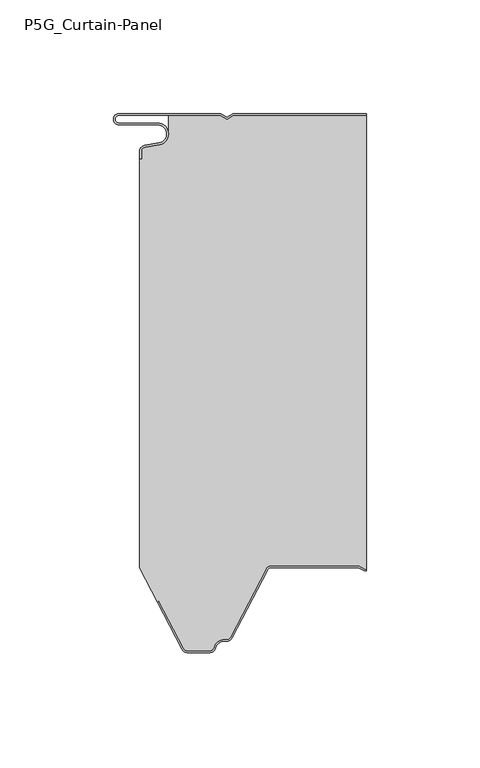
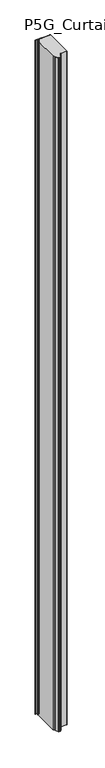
"""IFC4 building model written with IfcOpenShell, lengths in millimetres: plate geometry, P5G_Curtain-Panel : ACH_P5G_Rib-Roof-Panel_200M."""

from ifc_helpers import new_model, si_unit, frame, origin, place, context, project, spatial, polyline, circle_curve, source, transform, mapped, element, save
from ifc_brep_helpers import plane_surface, cylinder_surface, revolved_surface, advanced_brep


def p5g_curtain_panel_59ee5e51(model_context):
    return source(origin(), model_context, "Body", "AdvancedBrep", [
        advanced_brep(
        [(-50.0, -16.636349, 5000.0), (-50.0, -20.0, 5000.0), (-49.2, -20.0, 5000.0), (-49.2, -16.636349, 5000.0), (-47.7125667, -14.863695, 5000.0), (-41.266489, -13.7270771, 5000.0), (-42.1, -4.2, 5000.0), (-59.1, -4.2, 5000.0), (-59.1, -0.8, 5000.0), (-14.5143588, -0.8, 5000.0), (-11.6, -2.4826072, 5000.0), (-8.6856412, -0.8, 5000.0), (50.0, -0.8, 5000.0), (50.0, 0.0, 5000.0), (-8.9000007, 0.0, 5000.0), (-11.6, -1.5588466, 5000.0), (-14.2999993, 0.0, 5000.0), (-59.1, 0.0, 5000.0), (-59.1, -5.0, 5000.0), (-42.1, -5.0, 5000.0), (-41.4054075, -12.939231, 5000.0), (-47.851485, -14.075848, 5000.0), (-50.0, -16.636349, 0.0), (-47.8514853, -14.0758488, 0.0), (-41.4054075, -12.9392309, 0.0), (-42.1, -5.0, 0.0), (-59.1, -5.0, 0.0), (-59.1, 0.0, 0.0), (-14.2999993, 0.0, 0.0), (-11.6, -1.5588466, 0.0), (-8.9000007, 0.0, 0.0), (50.0, 0.0, 0.0), (50.0, -0.8, 0.0), (-8.6856412, -0.8, 0.0), (-11.6, -2.4826072, 0.0), (-14.5143588, -0.8, 0.0), (-59.1, -0.8, 0.0), (-59.1, -4.2, 0.0), (-42.1, -4.2, 0.0), (-41.266489, -13.7270773, 0.0), (-47.7125665, -14.8636942, 0.0), (-49.2, -16.636349, 0.0), (-49.2, -20.0, 0.0), (-50.0, -20.0, 0.0)],
        [
            (0, 1),
            (1, 2),
            (2, 3),
            (3, 4, circle_curve(frame((-47.4, -16.636349, 5000.0), z_axis=(0.0, 0.0, -1.0), x_axis=(1.0, 0.0, 0.0)), 1.8)),
            (4, 5),
            (5, 6, circle_curve(frame((-42.1, -9.0, 5000.0), z_axis=(0.0, 0.0, 1.0), x_axis=(1.0, 0.0, 0.0)), 4.8)),
            (6, 7),
            (7, 8, circle_curve(frame((-59.1, -2.5, 5000.0), z_axis=(0.0, 0.0, -1.0), x_axis=(1.0, 0.0, 0.0)), 1.7)),
            (8, 9),
            (9, 10),
            (10, 11),
            (11, 12),
            (12, 13),
            (13, 14),
            (14, 15),
            (15, 16),
            (16, 17),
            (17, 18, circle_curve(frame((-59.1, -2.5, 5000.0), z_axis=(0.0, 0.0, 1.0), x_axis=(1.0, 0.0, 0.0)), 2.5)),
            (18, 19),
            (19, 20, circle_curve(frame((-42.1, -9.0, 5000.0), z_axis=(0.0, 0.0, -1.0), x_axis=(1.0, 0.0, 0.0)), 4.0)),
            (20, 21),
            (21, 0, circle_curve(frame((-47.4, -16.636349, 5000.0), z_axis=(0.0, 0.0, 1.0), x_axis=(1.0, 0.0, 0.0)), 2.6)),
            (22, 23, circle_curve(frame((-47.4, -16.636349, 0.0), z_axis=(0.0, 0.0, -1.0), x_axis=(1.0, 0.0, 0.0)), 2.6)),
            (23, 24),
            (24, 25, circle_curve(frame((-42.1, -9.0, 0.0), z_axis=(0.0, 0.0, 1.0), x_axis=(1.0, 0.0, 0.0)), 4.0)),
            (25, 26),
            (26, 27, circle_curve(frame((-59.1, -2.5, 0.0), z_axis=(0.0, 0.0, -1.0), x_axis=(1.0, 0.0, 0.0)), 2.5)),
            (27, 28),
            (28, 29),
            (29, 30),
            (30, 31),
            (31, 32),
            (32, 33),
            (33, 34),
            (34, 35),
            (35, 36),
            (36, 37, circle_curve(frame((-59.1, -2.5, 0.0), z_axis=(0.0, 0.0, 1.0), x_axis=(1.0, 0.0, 0.0)), 1.7)),
            (37, 38),
            (38, 39, circle_curve(frame((-42.1, -9.0, 0.0), z_axis=(0.0, 0.0, -1.0), x_axis=(1.0, 0.0, 0.0)), 4.8)),
            (39, 40),
            (40, 41, circle_curve(frame((-47.4, -16.636349, 0.0), z_axis=(0.0, 0.0, 1.0), x_axis=(1.0, 0.0, 0.0)), 1.8)),
            (41, 42),
            (42, 43),
            (43, 22),
            (0, 22),
            (43, 1),
            (42, 2),
            (41, 3),
            (40, 4),
            (39, 5),
            (38, 6),
            (37, 7),
            (36, 8),
            (35, 9),
            (34, 10),
            (33, 11),
            (32, 12),
            (30, 14),
            (13, 31),
            (29, 15),
            (28, 16),
            (27, 17),
            (26, 18),
            (25, 19),
            (24, 20),
            (23, 21),
        ],
        [
            plane_surface(frame((-50.0, 0.0, 5000.0), z_axis=(0.0, 0.0, 1.0), x_axis=(0.0, 1.0, 0.0))),
            plane_surface(frame((-50.0, 0.0, 0.0), z_axis=(0.0, 0.0, -1.0), x_axis=(0.0, 1.0, 0.0))),
            plane_surface(frame((-50.0, -16.636349, 5000.0), z_axis=(-1.0, 0.0, 0.0), x_axis=(0.0, 0.0, -1.0))),
            plane_surface(frame((-50.0, -20.0, 5000.0), z_axis=(0.0, -1.0, 0.0), x_axis=(0.0, 0.0, -1.0))),
            plane_surface(frame((-49.2, -20.0, 5000.0), z_axis=(1.0, 0.0, 0.0), x_axis=(0.0, 0.0, -1.0))),
            revolved_surface(polyline([(-45.6, -16.636349, 0.0), (-45.6, -16.636349, 5000.0)]), (-47.4, -16.636349, 5000.0), (0.0, 0.0, -1.0)),
            plane_surface(frame((-47.7125665, -14.8636942, 5000.0), z_axis=(0.17364813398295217, -0.9848077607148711, 0.0), x_axis=(0.0, 0.0, -1.0))),
            cylinder_surface(frame((-42.1, -9.0, 5000.0), z_axis=(0.0, 0.0, 1.0), x_axis=(1.0, 0.0, 0.0)), 4.8),
            plane_surface(frame((-42.1, -4.2, 5000.0), z_axis=(0.0, 1.0, 0.0), x_axis=(0.0, 0.0, -1.0))),
            revolved_surface(polyline([(-57.4, -2.5, 0.0), (-57.4, -2.5, 5000.0)]), (-59.1, -2.5, 5000.0), (0.0, 0.0, -1.0)),
            plane_surface(frame((-59.1, -0.8, 5000.0), z_axis=(0.0, -1.0, 0.0), x_axis=(0.0, 0.0, -1.0))),
            plane_surface(frame((-14.5143588, -0.8, 5000.0), z_axis=(-0.5000003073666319, -0.8660252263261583, 0.0), x_axis=(0.0, 0.0, -1.0))),
            plane_surface(frame((-11.6, -2.4826072, 5000.0), z_axis=(0.5000003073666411, -0.866025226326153, 0.0), x_axis=(0.0, 0.0, -1.0))),
            plane_surface(frame((-8.6856412, -0.8, 5000.0), z_axis=(0.0, -1.0, 0.0), x_axis=(0.0, 0.0, -1.0))),
            plane_surface(frame((85.7000007, 0.0, 5000.0), z_axis=(0.0, 1.0, 0.0), x_axis=(0.0, 0.0, -1.0))),
            plane_surface(frame((-8.9000007, 0.0, 5000.0), z_axis=(-0.5000003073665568, 0.8660252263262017, 0.0), x_axis=(0.0, 0.0, -1.0))),
            plane_surface(frame((-11.6, -1.5588466, 5000.0), z_axis=(0.5000003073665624, 0.8660252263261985, 0.0), x_axis=(0.0, 0.0, -1.0))),
            plane_surface(frame((-14.2999993, 0.0, 5000.0), z_axis=(0.0, 1.0, 0.0), x_axis=(0.0, 0.0, -1.0))),
            cylinder_surface(frame((-59.1, -2.5, 5000.0), z_axis=(0.0, 0.0, 1.0), x_axis=(1.0, 0.0, 0.0)), 2.5),
            plane_surface(frame((-59.1, -5.0, 5000.0), z_axis=(0.0, -1.0, 0.0), x_axis=(0.0, 0.0, -1.0))),
            revolved_surface(polyline([(-38.1, -9.0, 0.0), (-38.1, -9.0, 5000.0)]), (-42.1, -9.0, 5000.0), (0.0, 0.0, -1.0)),
            plane_surface(frame((-41.4054075, -12.9392309, 5000.0), z_axis=(-0.17364813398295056, 0.9848077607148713, 0.0), x_axis=(0.0, 0.0, -1.0))),
            cylinder_surface(frame((-47.4, -16.636349, 5000.0), z_axis=(0.0, 0.0, 1.0), x_axis=(1.0, 0.0, 0.0)), 2.6),
            plane_surface(frame((50.0, 0.0, 5000.0), z_axis=(1.0, 0.0, 0.0), x_axis=(0.0, 0.0, -1.0))),
        ],
        [
            (0, [[1, 2, 3, 4, 5, 6, 7, 8, 9, 10, 11, 12, 13, 14, 15, 16, 17, 18, 19, 20, 21, 22]]),
            (1, [[23, 24, 25, 26, 27, 28, 29, 30, 31, 32, 33, 34, 35, 36, 37, 38, 39, 40, 41, 42, 43, 44]]),
            (2, [[-1, 45, -44, 46]]),
            (3, [[-2, -46, -43, 47]]),
            (4, [[-3, -47, -42, 48]]),
            (5, [[-4, -48, -41, 49]]),
            (6, [[-5, -49, -40, 50]]),
            (7, [[-6, -50, -39, 51]]),
            (8, [[-7, -51, -38, 52]]),
            (9, [[-8, -52, -37, 53]]),
            (10, [[-9, -53, -36, 54]]),
            (11, [[-10, -54, -35, 55]]),
            (12, [[-11, -55, -34, 56]]),
            (13, [[-56, -33, 57, -12]]),
            (14, [[58, -14, 59, -31]]),
            (15, [[-15, -58, -30, 60]]),
            (16, [[-16, -60, -29, 61]]),
            (17, [[-17, -61, -28, 62]]),
            (18, [[-18, -62, -27, 63]]),
            (19, [[-19, -63, -26, 64]]),
            (20, [[-20, -64, -25, 65]]),
            (21, [[-21, -65, -24, 66]]),
            (22, [[-22, -66, -23, -45]]),
            (23, [[-13, -57, -32, -59]]),
        ],
    ),
        advanced_brep(
        [(-30.6207387, -235.6314818, 0.0), (-41.5569015, -214.6340495, 0.0), (-42.1499858, -215.2271753, 0.0), (-50.0, -200.1551481, 0.0), (-50.0, -20.0, 0.0), (-49.2, -20.0, 0.0), (-49.2, -16.636349, 0.0), (-47.7125653, -14.8636948, 0.0), (-41.2664891, -13.7270773, 0.0), (-37.3182654, -8.5816526, 0.0), (-37.3182654, -0.8, 0.0), (-14.5143588, -0.8, 0.0), (-11.6, -2.4826072, 0.0), (-8.6856412, -0.8, 0.0), (50.0, -0.8, 0.0), (50.0, -200.7, 0.0), (49.2107961, -200.7, 0.0), (46.6127185, -199.2, 0.0), (8.090871, -199.2, 0.0), (5.6075115, -200.7065836, 0.0), (-9.9783733, -230.6314825, 0.0), (-11.574819, -231.6, 0.0), (-12.6272901, -231.6, 0.0), (-17.2841077, -235.2363636, 0.0), (-19.030414, -236.5999997, 0.0), (-29.024293, -236.5999997, 0.0), (-30.6207383, -235.6314813, 5000.0), (-29.024293, -236.5999997, 5000.0), (-19.030414, -236.5999997, 5000.0), (-17.2841077, -235.2363636, 5000.0), (-12.6272901, -231.6, 5000.0), (-11.574819, -231.6, 5000.0), (-9.9783737, -230.631482, 5000.0), (5.6075107, -200.7065835, 5000.0), (8.090871, -199.2, 5000.0), (46.6127185, -199.2, 5000.0), (49.2107961, -200.7, 5000.0), (50.0, -200.7, 5000.0), (50.0, -0.8, 5000.0), (-8.6856412, -0.8, 5000.0), (-11.6, -2.4826072, 5000.0), (-14.5143588, -0.8, 5000.0), (-37.3182654, -0.8, 5000.0), (-37.3182654, -8.5816526, 5000.0), (-41.2664891, -13.7270773, 5000.0), (-47.7125651, -14.863694, 5000.0), (-49.2, -16.636349, 5000.0), (-49.2, -20.0, 5000.0), (-50.0, -20.0, 5000.0), (-50.0, -200.1551481, 5000.0), (-42.1499858, -215.2271753, 5000.0), (-41.5569015, -214.6340495, 5000.0)],
        [
            (0, 1),
            (1, 2),
            (2, 3),
            (3, 4),
            (4, 5),
            (5, 6),
            (6, 7, circle_curve(frame((-47.4, -16.636349, 0.0), z_axis=(0.0, 0.0, -1.0), x_axis=(-1.0, 0.0, 0.0)), 1.8)),
            (7, 8),
            (8, 9, circle_curve(frame((-42.1, -9.0, 0.0), z_axis=(0.0, 0.0, 1.0), x_axis=(-1.0, 0.0, 0.0)), 4.8)),
            (9, 10),
            (10, 11),
            (11, 12),
            (12, 13),
            (13, 14),
            (14, 15),
            (15, 16),
            (16, 17),
            (17, 18),
            (18, 19, circle_curve(frame((8.090871, -202.0, 0.0), z_axis=(0.0, 0.0, 1.0), x_axis=(-1.0, 0.0, 0.0)), 2.8)),
            (19, 20),
            (20, 21, circle_curve(frame((-11.574819, -229.8, 0.0), z_axis=(0.0, 0.0, -1.0), x_axis=(-1.0, 0.0, 0.0)), 1.8)),
            (21, 22),
            (22, 23, circle_curve(frame((-12.6272901, -236.4, 0.0), z_axis=(0.0, 0.0, 1.0), x_axis=(-1.0, 0.0, 0.0)), 4.8)),
            (23, 24, circle_curve(frame((-19.030414, -234.8, 0.0), z_axis=(0.0, 0.0, -1.0), x_axis=(-1.0, 0.0, 0.0)), 1.7999997)),
            (24, 25),
            (25, 0, circle_curve(frame((-29.024293, -234.8, 0.0), z_axis=(0.0, 0.0, -1.0), x_axis=(-1.0, 0.0, 0.0)), 1.7999997)),
            (26, 27, circle_curve(frame((-29.024293, -234.8, 5000.0), z_axis=(0.0, 0.0, 1.0), x_axis=(-1.0, 0.0, 0.0)), 1.7999997)),
            (27, 28),
            (28, 29, circle_curve(frame((-19.030414, -234.8, 5000.0), z_axis=(0.0, 0.0, 1.0), x_axis=(-1.0, 0.0, 0.0)), 1.7999997)),
            (29, 30, circle_curve(frame((-12.6272901, -236.4, 5000.0), z_axis=(0.0, 0.0, -1.0), x_axis=(-1.0, 0.0, 0.0)), 4.8)),
            (30, 31),
            (31, 32, circle_curve(frame((-11.574819, -229.8, 5000.0), z_axis=(0.0, 0.0, 1.0), x_axis=(-1.0, 0.0, 0.0)), 1.8)),
            (32, 33),
            (33, 34, circle_curve(frame((8.090871, -202.0, 5000.0), z_axis=(0.0, 0.0, -1.0), x_axis=(-1.0, 0.0, 0.0)), 2.8)),
            (34, 35),
            (35, 36),
            (36, 37),
            (37, 38),
            (38, 39),
            (39, 40),
            (40, 41),
            (41, 42),
            (42, 43),
            (43, 44, circle_curve(frame((-42.1, -9.0, 5000.0), z_axis=(0.0, 0.0, -1.0), x_axis=(-1.0, 0.0, 0.0)), 4.8)),
            (44, 45),
            (45, 46, circle_curve(frame((-47.4, -16.636349, 5000.0), z_axis=(0.0, 0.0, 1.0), x_axis=(-1.0, 0.0, 0.0)), 1.8)),
            (46, 47),
            (47, 48),
            (48, 49),
            (49, 50),
            (50, 51),
            (51, 26),
            (0, 26),
            (51, 1),
            (50, 2),
            (49, 3),
            (48, 4),
            (47, 5),
            (46, 6),
            (45, 7),
            (44, 8),
            (43, 9),
            (42, 10),
            (41, 11),
            (40, 12),
            (39, 13),
            (38, 14),
            (36, 16),
            (15, 37),
            (35, 17),
            (34, 18),
            (33, 19),
            (32, 20),
            (31, 21),
            (30, 22),
            (29, 23),
            (28, 24),
            (27, 25),
        ],
        [
            plane_surface(frame((-50.0, 0.0, 0.0), z_axis=(0.0, 0.0, -1.0), x_axis=(0.0, 1.0, 0.0))),
            plane_surface(frame((-50.0, 0.0, 5000.0), z_axis=(0.0, 0.0, 1.0), x_axis=(0.0, 1.0, 0.0))),
            plane_surface(frame((-30.6207387, -235.6314818, 0.0), z_axis=(-0.8869140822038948, -0.46193442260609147, 0.0), x_axis=(0.0, 0.0, 1.0))),
            plane_surface(frame((-41.5569015, -214.6340495, 0.0), z_axis=(0.7071314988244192, -0.7070820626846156, 0.0), x_axis=(0.0, 0.0, 1.0))),
            plane_surface(frame((-42.1499858, -215.2271753, 0.0), z_axis=(-0.8869140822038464, -0.46193442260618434, 0.0), x_axis=(0.0, 0.0, 1.0))),
            plane_surface(frame((-50.0, -200.1551481, 0.0), z_axis=(-1.0, 0.0, 0.0), x_axis=(0.0, 0.0, 1.0))),
            plane_surface(frame((-50.0, -20.0, 0.0), z_axis=(0.0, 1.0, 0.0), x_axis=(0.0, 0.0, 1.0))),
            plane_surface(frame((-49.2, -20.0, 0.0), z_axis=(-1.0, 0.0, 0.0), x_axis=(0.0, 0.0, 1.0))),
            cylinder_surface(frame((-47.4, -16.636349, 0.0), z_axis=(0.0, 0.0, -1.0), x_axis=(-1.0, 0.0, 0.0)), 1.8),
            plane_surface(frame((-47.7125651, -14.863694, 0.0), z_axis=(-0.17364811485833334, 0.9848077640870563, 0.0), x_axis=(0.0, 0.0, 1.0))),
            revolved_surface(polyline([(-46.9, -9.0, 5000.0), (-46.9, -9.0, 0.0)]), (-42.1, -9.0, 0.0), (0.0, 0.0, 1.0)),
            plane_surface(frame((-37.3182654, -8.5816526, 0.0), z_axis=(-1.0, 0.0, 0.0), x_axis=(0.0, 0.0, 1.0))),
            plane_surface(frame((-37.3182654, -0.8, 0.0), z_axis=(0.0, 1.0, 0.0), x_axis=(0.0, 0.0, 1.0))),
            plane_surface(frame((-14.5143588, -0.8, 0.0), z_axis=(0.500000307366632, 0.8660252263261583, 0.0), x_axis=(0.0, 0.0, 1.0))),
            plane_surface(frame((-11.6, -2.4826072, 0.0), z_axis=(-0.500000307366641, 0.8660252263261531, 0.0), x_axis=(0.0, 0.0, 1.0))),
            plane_surface(frame((-8.6856412, -0.8, 0.0), z_axis=(0.0, 1.0, 0.0), x_axis=(0.0, 0.0, 1.0))),
            plane_surface(frame((81.5859248, -200.7, 0.0), z_axis=(0.0, -1.0, 0.0), x_axis=(0.0, 0.0, 1.0))),
            plane_surface(frame((49.2107961, -200.7, 0.0), z_axis=(-0.4999997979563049, -0.866025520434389, 0.0), x_axis=(0.0, 0.0, 1.0))),
            plane_surface(frame((46.6127185, -199.2, 0.0), z_axis=(0.0, -1.0, 0.0), x_axis=(0.0, 0.0, 1.0))),
            revolved_surface(polyline([(5.290871, -202.0, 5000.0), (5.290871, -202.0, 0.0)]), (8.090871, -202.0, 0.0), (0.0, 0.0, 1.0)),
            plane_surface(frame((5.6075107, -200.7065835, 0.0), z_axis=(0.8869140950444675, -0.4619343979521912, 0.0), x_axis=(0.0, 0.0, 1.0))),
            cylinder_surface(frame((-11.574819, -229.8, 0.0), z_axis=(0.0, 0.0, -1.0), x_axis=(-1.0, 0.0, 0.0)), 1.8),
            plane_surface(frame((-11.574819, -231.6, 0.0), z_axis=(0.0, -1.0, 0.0), x_axis=(0.0, 0.0, 1.0))),
            revolved_surface(polyline([(-17.4272901, -236.4, 5000.0), (-17.4272901, -236.4, 0.0)]), (-12.6272901, -236.4, 0.0), (0.0, 0.0, 1.0)),
            cylinder_surface(frame((-19.030414, -234.8, 0.0), z_axis=(0.0, 0.0, -1.0), x_axis=(-1.0, 0.0, 0.0)), 1.7999997),
            plane_surface(frame((-19.030414, -236.5999997, 0.0), z_axis=(0.0, -1.0, 0.0), x_axis=(0.0, 0.0, 1.0))),
            cylinder_surface(frame((-29.024293, -234.8, 0.0), z_axis=(0.0, 0.0, -1.0), x_axis=(-1.0, 0.0, 0.0)), 1.7999997),
            plane_surface(frame((50.0, 0.0, 5000.0), z_axis=(1.0, 0.0, 0.0), x_axis=(0.0, 0.0, -1.0))),
        ],
        [
            (0, [[1, 2, 3, 4, 5, 6, 7, 8, 9, 10, 11, 12, 13, 14, 15, 16, 17, 18, 19, 20, 21, 22, 23, 24, 25, 26]]),
            (1, [[27, 28, 29, 30, 31, 32, 33, 34, 35, 36, 37, 38, 39, 40, 41, 42, 43, 44, 45, 46, 47, 48, 49, 50, 51, 52]]),
            (2, [[-1, 53, -52, 54]]),
            (3, [[-2, -54, -51, 55]]),
            (4, [[-3, -55, -50, 56]]),
            (5, [[-4, -56, -49, 57]]),
            (6, [[-5, -57, -48, 58]]),
            (7, [[-6, -58, -47, 59]]),
            (8, [[-7, -59, -46, 60]]),
            (9, [[-8, -60, -45, 61]]),
            (10, [[-9, -61, -44, 62]]),
            (11, [[-10, -62, -43, 63]]),
            (12, [[-11, -63, -42, 64]]),
            (13, [[-12, -64, -41, 65]]),
            (14, [[-13, -65, -40, 66]]),
            (15, [[-66, -39, 67, -14]]),
            (16, [[68, -16, 69, -37]]),
            (17, [[-17, -68, -36, 70]]),
            (18, [[-18, -70, -35, 71]]),
            (19, [[-19, -71, -34, 72]]),
            (20, [[-20, -72, -33, 73]]),
            (21, [[-21, -73, -32, 74]]),
            (22, [[-22, -74, -31, 75]]),
            (23, [[-23, -75, -30, 76]]),
            (24, [[-24, -76, -29, 77]]),
            (25, [[-25, -77, -28, 78]]),
            (26, [[-26, -78, -27, -53]]),
            (27, [[-15, -67, -38, -69]]),
        ],
    ),
        advanced_brep(
        [(49.2107962, -200.7, 5000.0), (46.6127186, -199.2, 5000.0), (8.090871, -199.2, 5000.0), (5.6075116, -200.7065836, 5000.0), (-9.9783733, -230.6314825, 5000.0), (-11.574819, -231.6, 5000.0), (-12.62729, -231.6, 5000.0), (-17.2841076, -235.2363636, 5000.0), (-19.030414, -236.6, 5000.0), (-29.024293, -236.6, 5000.0), (-30.6207383, -235.631482, 5000.0), (-41.5569015, -214.6340495, 5000.0), (-42.15, -215.227148, 5000.0), (-31.33027, -236.00103, 5000.0), (-29.024293, -237.4, 5000.0), (-19.030414, -237.4, 5000.0), (-16.5079711, -235.4303031, 5000.0), (-12.62729, -232.4, 5000.0), (-11.574819, -232.4, 5000.0), (-9.2688424, -231.0010295, 5000.0), (6.317042, -201.076131, 5000.0), (8.090871, -200.0, 5000.0), (46.3983593, -200.0, 5000.0), (48.9964369, -201.5, 5000.0), (50.0, -201.5, 5000.0), (50.0, -200.7, 5000.0), (48.9964369, -201.5, 0.0), (46.3983593, -200.0, 0.0), (8.090871, -200.0, 0.0), (6.3170428, -201.0761312, 0.0), (-9.268842, -231.00103, 0.0), (-11.574819, -232.4, 0.0), (-12.62729, -232.4, 0.0), (-16.5079713, -235.430303, 0.0), (-19.030414, -237.4, 0.0), (-29.024293, -237.4, 0.0), (-31.3302696, -236.0010295, 0.0), (-42.15, -215.227148, 0.0), (-41.5569015, -214.6340495, 0.0), (-30.6207387, -235.6314825, 0.0), (-29.024293, -236.6, 0.0), (-19.030414, -236.6, 0.0), (-17.2841074, -235.2363637, 0.0), (-12.62729, -231.6, 0.0), (-11.574819, -231.6, 0.0), (-9.9783737, -230.631482, 0.0), (5.6075107, -200.7065835, 0.0), (8.090871, -199.2, 0.0), (46.6127186, -199.2, 0.0), (49.2107962, -200.7, 0.0), (50.0, -200.7, 0.0), (50.0, -201.5, 0.0)],
        [
            (0, 1),
            (1, 2),
            (2, 3, circle_curve(frame((8.090871, -202.0, 5000.0), z_axis=(0.0, 0.0, 1.0), x_axis=(1.0, 0.0, 0.0)), 2.8)),
            (3, 4),
            (4, 5, circle_curve(frame((-11.574819, -229.8, 5000.0), z_axis=(0.0, 0.0, -1.0), x_axis=(1.0, 0.0, 0.0)), 1.8)),
            (5, 6),
            (6, 7, circle_curve(frame((-12.62729, -236.4, 5000.0), z_axis=(0.0, 0.0, 1.0), x_axis=(1.0, 0.0, 0.0)), 4.8)),
            (7, 8, circle_curve(frame((-19.030414, -234.8, 5000.0), z_axis=(0.0, 0.0, -1.0), x_axis=(1.0, 0.0, 0.0)), 1.8)),
            (8, 9),
            (9, 10, circle_curve(frame((-29.024293, -234.8, 5000.0), z_axis=(0.0, 0.0, -1.0), x_axis=(1.0, 0.0, 0.0)), 1.8)),
            (10, 11),
            (11, 12),
            (12, 13),
            (13, 14, circle_curve(frame((-29.024293, -234.8, 5000.0), z_axis=(0.0, 0.0, 1.0), x_axis=(1.0, 0.0, 0.0)), 2.6)),
            (14, 15),
            (15, 16, circle_curve(frame((-19.030414, -234.8, 5000.0), z_axis=(0.0, 0.0, 1.0), x_axis=(1.0, 0.0, 0.0)), 2.6)),
            (16, 17, circle_curve(frame((-12.62729, -236.4, 5000.0), z_axis=(0.0, 0.0, -1.0), x_axis=(1.0, 0.0, 0.0)), 4.0)),
            (17, 18),
            (18, 19, circle_curve(frame((-11.574819, -229.8, 5000.0), z_axis=(0.0, 0.0, 1.0), x_axis=(1.0, 0.0, 0.0)), 2.6)),
            (19, 20),
            (20, 21, circle_curve(frame((8.090871, -202.0, 5000.0), z_axis=(0.0, 0.0, -1.0), x_axis=(1.0, 0.0, 0.0)), 2.0)),
            (21, 22),
            (22, 23),
            (23, 24),
            (24, 25),
            (25, 0),
            (26, 27),
            (27, 28),
            (28, 29, circle_curve(frame((8.090871, -202.0, 0.0), z_axis=(0.0, 0.0, 1.0), x_axis=(1.0, 0.0, 0.0)), 2.0)),
            (29, 30),
            (30, 31, circle_curve(frame((-11.574819, -229.8, 0.0), z_axis=(0.0, 0.0, -1.0), x_axis=(1.0, 0.0, 0.0)), 2.6)),
            (31, 32),
            (32, 33, circle_curve(frame((-12.62729, -236.4, 0.0), z_axis=(0.0, 0.0, 1.0), x_axis=(1.0, 0.0, 0.0)), 4.0)),
            (33, 34, circle_curve(frame((-19.030414, -234.8, 0.0), z_axis=(0.0, 0.0, -1.0), x_axis=(1.0, 0.0, 0.0)), 2.6)),
            (34, 35),
            (35, 36, circle_curve(frame((-29.024293, -234.8, 0.0), z_axis=(0.0, 0.0, -1.0), x_axis=(1.0, 0.0, 0.0)), 2.6)),
            (36, 37),
            (37, 38),
            (38, 39),
            (39, 40, circle_curve(frame((-29.024293, -234.8, 0.0), z_axis=(0.0, 0.0, 1.0), x_axis=(1.0, 0.0, 0.0)), 1.8)),
            (40, 41),
            (41, 42, circle_curve(frame((-19.030414, -234.8, 0.0), z_axis=(0.0, 0.0, 1.0), x_axis=(1.0, 0.0, 0.0)), 1.8)),
            (42, 43, circle_curve(frame((-12.62729, -236.4, 0.0), z_axis=(0.0, 0.0, -1.0), x_axis=(1.0, 0.0, 0.0)), 4.8)),
            (43, 44),
            (44, 45, circle_curve(frame((-11.574819, -229.8, 0.0), z_axis=(0.0, 0.0, 1.0), x_axis=(1.0, 0.0, 0.0)), 1.8)),
            (45, 46),
            (46, 47, circle_curve(frame((8.090871, -202.0, 0.0), z_axis=(0.0, 0.0, -1.0), x_axis=(1.0, 0.0, 0.0)), 2.8)),
            (47, 48),
            (48, 49),
            (49, 50),
            (50, 51),
            (51, 26),
            (49, 0),
            (25, 50),
            (48, 1),
            (47, 2),
            (46, 3),
            (45, 4),
            (44, 5),
            (43, 6),
            (42, 7),
            (41, 8),
            (40, 9),
            (39, 10),
            (38, 11),
            (37, 12),
            (36, 13),
            (35, 14),
            (34, 15),
            (33, 16),
            (32, 17),
            (31, 18),
            (30, 19),
            (29, 20),
            (28, 21),
            (27, 22),
            (26, 23),
            (51, 24),
        ],
        [
            plane_surface(frame((-50.0, -200.0, 5000.0), z_axis=(0.0, 0.0, 1.0), x_axis=(0.0, 1.0, 0.0))),
            plane_surface(frame((-50.0, -200.0, 0.0), z_axis=(0.0, 0.0, -1.0), x_axis=(0.0, 1.0, 0.0))),
            plane_surface(frame((81.5859248, -200.7, 5000.0), z_axis=(0.0, 1.0, 0.0), x_axis=(0.0, 0.0, -1.0))),
            plane_surface(frame((49.2107962, -200.7, 5000.0), z_axis=(0.4999997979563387, 0.8660255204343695, 0.0), x_axis=(0.0, 0.0, -1.0))),
            plane_surface(frame((46.6127186, -199.2, 5000.0), z_axis=(0.0, 1.0, 0.0), x_axis=(0.0, 0.0, -1.0))),
            cylinder_surface(frame((8.090871, -202.0, 5000.0), z_axis=(0.0, 0.0, 1.0), x_axis=(1.0, 0.0, 0.0)), 2.8),
            plane_surface(frame((5.6075107, -200.7065835, 5000.0), z_axis=(-0.8869140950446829, 0.4619343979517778, 0.0), x_axis=(0.0, 0.0, -1.0))),
            revolved_surface(polyline([(-9.774818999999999, -229.8, 0.0), (-9.774818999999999, -229.8, 5000.0)]), (-11.574819, -229.8, 5000.0), (0.0, 0.0, -1.0)),
            plane_surface(frame((-11.574819, -231.6, 5000.0), z_axis=(0.0, 1.0, 0.0), x_axis=(0.0, 0.0, -1.0))),
            cylinder_surface(frame((-12.62729, -236.4, 5000.0), z_axis=(0.0, 0.0, 1.0), x_axis=(1.0, 0.0, 0.0)), 4.8),
            revolved_surface(polyline([(-17.230414, -234.8, 0.0), (-17.230414, -234.8, 5000.0)]), (-19.030414, -234.8, 5000.0), (0.0, 0.0, -1.0)),
            plane_surface(frame((-19.030414, -236.6, 5000.0), z_axis=(0.0, 1.0, 0.0), x_axis=(0.0, 0.0, -1.0))),
            revolved_surface(polyline([(-27.224293, -234.8, 0.0), (-27.224293, -234.8, 5000.0)]), (-29.024293, -234.8, 5000.0), (0.0, 0.0, -1.0)),
            plane_surface(frame((-30.6207387, -235.6314825, 5000.0), z_axis=(0.8869140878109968, 0.46193441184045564, 0.0), x_axis=(0.0, 0.0, -1.0))),
            plane_surface(frame((-41.5569015, -214.6340495, 5000.0), z_axis=(-0.7071067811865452, 0.7071067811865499, 0.0), x_axis=(0.0, 0.0, -1.0))),
            plane_surface(frame((-42.15, -215.227148, 5000.0), z_axis=(-0.8869140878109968, -0.46193441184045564, 0.0), x_axis=(0.0, 0.0, -1.0))),
            cylinder_surface(frame((-29.024293, -234.8, 5000.0), z_axis=(0.0, 0.0, 1.0), x_axis=(1.0, 0.0, 0.0)), 2.6),
            plane_surface(frame((-29.024293, -237.4, 5000.0), z_axis=(0.0, -1.0, 0.0), x_axis=(0.0, 0.0, -1.0))),
            cylinder_surface(frame((-19.030414, -234.8, 5000.0), z_axis=(0.0, 0.0, 1.0), x_axis=(1.0, 0.0, 0.0)), 2.6),
            revolved_surface(polyline([(-8.62729, -236.4, 0.0), (-8.62729, -236.4, 5000.0)]), (-12.62729, -236.4, 5000.0), (0.0, 0.0, -1.0)),
            plane_surface(frame((-12.62729, -232.4, 5000.0), z_axis=(0.0, -1.0, 0.0), x_axis=(0.0, 0.0, -1.0))),
            cylinder_surface(frame((-11.574819, -229.8, 5000.0), z_axis=(0.0, 0.0, 1.0), x_axis=(1.0, 0.0, 0.0)), 2.6),
            plane_surface(frame((-9.268842, -231.00103, 5000.0), z_axis=(0.8869140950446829, -0.4619343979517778, 0.0), x_axis=(0.0, 0.0, -1.0))),
            revolved_surface(polyline([(10.090871, -202.0, 0.0), (10.090871, -202.0, 5000.0)]), (8.090871, -202.0, 5000.0), (0.0, 0.0, -1.0)),
            plane_surface(frame((8.090871, -200.0, 5000.0), z_axis=(0.0, -1.0, 0.0), x_axis=(0.0, 0.0, -1.0))),
            plane_surface(frame((46.3983593, -200.0, 5000.0), z_axis=(-0.4999997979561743, -0.8660255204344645, 0.0), x_axis=(0.0, 0.0, -1.0))),
            plane_surface(frame((48.9964369, -201.5, 5000.0), z_axis=(0.0, -1.0, 0.0), x_axis=(0.0, 0.0, -1.0))),
            plane_surface(frame((50.0, 0.0, 5000.0), z_axis=(1.0, 0.0, 0.0), x_axis=(0.0, 0.0, -1.0))),
        ],
        [
            (0, [[1, 2, 3, 4, 5, 6, 7, 8, 9, 10, 11, 12, 13, 14, 15, 16, 17, 18, 19, 20, 21, 22, 23, 24, 25, 26]]),
            (1, [[27, 28, 29, 30, 31, 32, 33, 34, 35, 36, 37, 38, 39, 40, 41, 42, 43, 44, 45, 46, 47, 48, 49, 50, 51, 52]]),
            (2, [[53, -26, 54, -50]]),
            (3, [[-1, -53, -49, 55]]),
            (4, [[-2, -55, -48, 56]]),
            (5, [[-3, -56, -47, 57]]),
            (6, [[-4, -57, -46, 58]]),
            (7, [[-5, -58, -45, 59]]),
            (8, [[-6, -59, -44, 60]]),
            (9, [[-7, -60, -43, 61]]),
            (10, [[-8, -61, -42, 62]]),
            (11, [[-9, -62, -41, 63]]),
            (12, [[-10, -63, -40, 64]]),
            (13, [[-11, -64, -39, 65]]),
            (14, [[-12, -65, -38, 66]]),
            (15, [[-13, -66, -37, 67]]),
            (16, [[-14, -67, -36, 68]]),
            (17, [[-15, -68, -35, 69]]),
            (18, [[-16, -69, -34, 70]]),
            (19, [[-17, -70, -33, 71]]),
            (20, [[-18, -71, -32, 72]]),
            (21, [[-19, -72, -31, 73]]),
            (22, [[-20, -73, -30, 74]]),
            (23, [[-21, -74, -29, 75]]),
            (24, [[-22, -75, -28, 76]]),
            (25, [[-23, -76, -27, 77]]),
            (26, [[-77, -52, 78, -24]]),
            (27, [[-25, -78, -51, -54]]),
        ],
    ),
    ])


if __name__ == "__main__":
    model = new_model("IFC4")
    model_context = context("Model", 3, world=origin())
    ifc_project = project(units=[si_unit("LENGTHUNIT", "METRE", prefix="MILLI")], contexts=[model_context])
    site = spatial("IfcSite", under=ifc_project)
    building = spatial("IfcBuilding", under=site)
    placement = place(None, origin())
    p5g_curtain_panel_shape = p5g_curtain_panel_59ee5e51(model_context)
    element("IfcPlate", 1, ObjectType="P5G_Curtain-Panel : ACH_P5G_Rib-Roof-Panel_200M", at=placement, inside=building, context=model_context, shape_type="MappedRepresentation", body=[
        mapped(p5g_curtain_panel_shape, transform((0.0, 0.0, 0.0), x_axis=(1.0, 0.0, 0.0), y_axis=(0.0, 1.0, 0.0), z_axis=(0.0, 0.0, 1.0))),
    ])
    save(model, "model.ifc")
